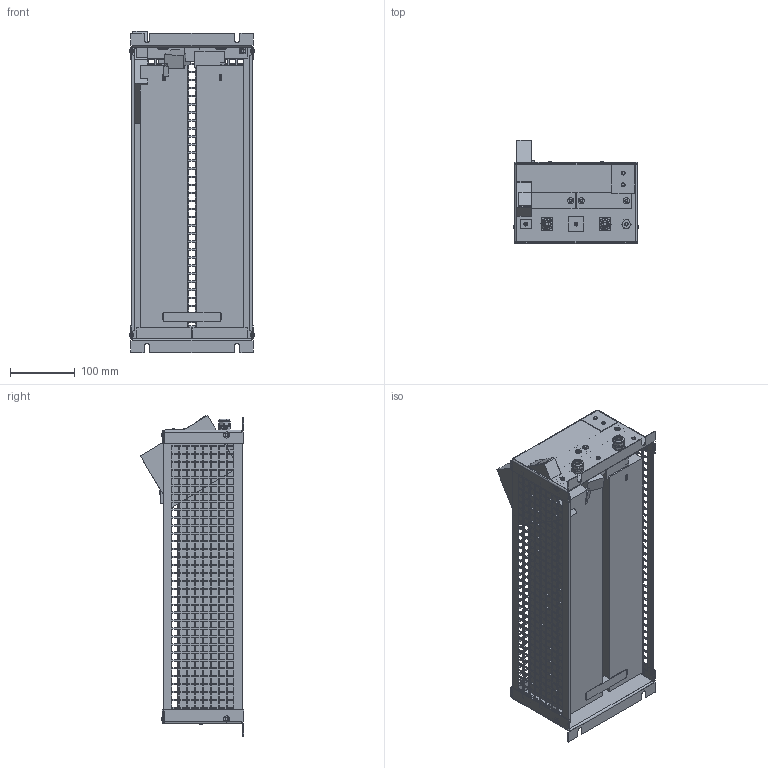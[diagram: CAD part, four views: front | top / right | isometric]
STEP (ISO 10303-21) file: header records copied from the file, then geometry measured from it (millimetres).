
FILE_DESCRIPTION(/* description */ (''),/* implementation_level */ '2;1');
FILE_NAME(/* name */ 'C:\_Vault\Dati\CATALOGO\RM\RM catalogo\RM catalogo\RM 02M-Esterno.stp',/* time_stamp */ '2021-11-30T10:40:17+01:00',/* author */ ('claudio'),/* organization */ (''),/* preprocessor_version */ 'ST-DEVELOPER v18.1',/* originating_system */ 'Autodesk Inventor 2022',/* authorisation */ '');
FILE_SCHEMA (('AUTOMOTIVE_DESIGN { 1 0 10303 214 3 1 1 }'));
Products named in the file (2): RM 02M-Catalogo; RM 02M-Esterno
Assembly tree (1 placements, depth 2):
  RM 02M-Catalogo
    RM 02M-Esterno
Bounding box: 193.2 x 160.36 x 497.96 mm (x, y, z)
Volume: 5980185.8 mm3; surface area: 684134 mm2
Topology: 1 solids, 19 shells, 4865 faces, 14184 edges, 9351 vertices
Faces by surface type: plane 4580, cylinder 184, cone 82, torus 19
Full cylindrical faces by diameter (mm): 3 x4, 3.2 x1, 3.242 x1, 4 x2, 4.8 x14, 4.92 x1, 5 x15, 6.3 x4, 9.6 x2, 9.8 x2, 11 x4, 11.6 x4, 13.86 x2, 15.2 x6, 15.5 x4, 17 x4
Entity records: 166588 total; most frequent: CARTESIAN_POINT 28730, ORIENTED_EDGE 28368, DIRECTION 24344, EDGE_CURVE 14184, LINE 13490, VECTOR 13490, VERTEX_POINT 9350, EDGE_LOOP 6914
